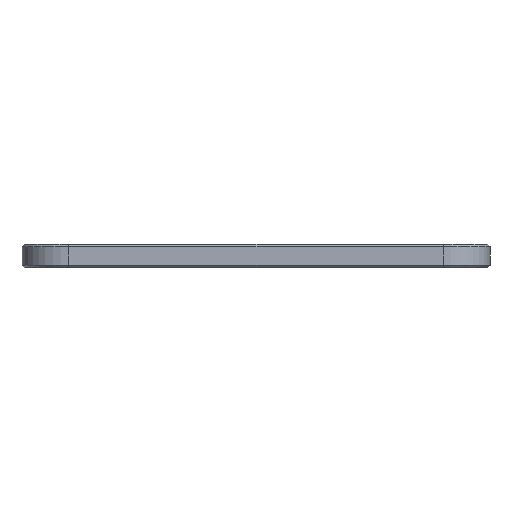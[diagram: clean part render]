
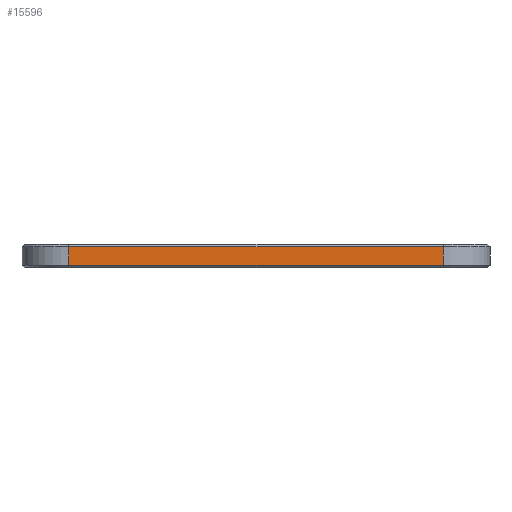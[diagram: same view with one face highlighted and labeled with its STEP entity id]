
A CAD part, left-side view. The second image highlights one B-rep face of the part: STEP entity #15596.
In plain terms, the highlighted planar face has unit normal (-1, 0, 0).
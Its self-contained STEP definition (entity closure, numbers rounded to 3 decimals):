
#1527 = LINE ( 'NONE', #29733, #10711 ) ;
#1763 = EDGE_CURVE ( 'NONE', #8090, #5925, #13549, .T. ) ;
#5013 = VECTOR ( 'NONE', #8669, 1000. ) ;
#5334 = CARTESIAN_POINT ( 'NONE',  ( -50., -70., 10. ) ) ;
#5925 = VERTEX_POINT ( 'NONE', #27170 ) ;
#8090 = VERTEX_POINT ( 'NONE', #29614 ) ;
#8669 = DIRECTION ( 'NONE',  ( 0., 1., 0. ) ) ;
#10711 = VECTOR ( 'NONE', #26700, 1000. ) ;
#11889 = LINE ( 'NONE', #18939, #30333 ) ;
#12311 = DIRECTION ( 'NONE',  ( -1., 0., 0. ) ) ;
#13549 = LINE ( 'NONE', #21523, #22744 ) ;
#14248 = LINE ( 'NONE', #18944, #5013 ) ;
#15596 = ADVANCED_FACE ( 'NONE', ( #25446 ), #33052, .T. ) ;
#17397 = VERTEX_POINT ( 'NONE', #21206 ) ;
#18939 = CARTESIAN_POINT ( 'NONE',  ( -50., 110., 10. ) ) ;
#18944 = CARTESIAN_POINT ( 'NONE',  ( -50., 110., 9. ) ) ;
#21206 = CARTESIAN_POINT ( 'NONE',  ( -50., -50., 9. ) ) ;
#21523 = CARTESIAN_POINT ( 'NONE',  ( -50., -70., 1. ) ) ;
#22434 = DIRECTION ( 'NONE',  ( 0., 0., -1. ) ) ;
#22744 = VECTOR ( 'NONE', #24977, 1000. ) ;
#24200 = ORIENTED_EDGE ( 'NONE', *, *, #36943, .T. ) ;
#24977 = DIRECTION ( 'NONE',  ( 0., -1., 0. ) ) ;
#25446 = FACE_OUTER_BOUND ( 'NONE', #44196, .T. ) ;
#26700 = DIRECTION ( 'NONE',  ( 0., 0., 1. ) ) ;
#27170 = CARTESIAN_POINT ( 'NONE',  ( -50., -50., 1. ) ) ;
#29614 = CARTESIAN_POINT ( 'NONE',  ( -50., 110., 1. ) ) ;
#29733 = CARTESIAN_POINT ( 'NONE',  ( -50., -50., 10. ) ) ;
#29945 = EDGE_CURVE ( 'NONE', #44071, #8090, #11889, .T. ) ;
#30333 = VECTOR ( 'NONE', #22434, 1000. ) ;
#31640 = ORIENTED_EDGE ( 'NONE', *, *, #29945, .T. ) ;
#33052 = PLANE ( 'NONE',  #42220 ) ;
#33623 = ORIENTED_EDGE ( 'NONE', *, *, #1763, .T. ) ;
#36551 = DIRECTION ( 'NONE',  ( 0., 0., 1. ) ) ;
#36943 = EDGE_CURVE ( 'NONE', #17397, #44071, #14248, .T. ) ;
#38791 = ORIENTED_EDGE ( 'NONE', *, *, #41642, .T. ) ;
#41642 = EDGE_CURVE ( 'NONE', #5925, #17397, #1527, .T. ) ;
#42220 = AXIS2_PLACEMENT_3D ( 'NONE', #5334, #12311, #36551 ) ;
#44071 = VERTEX_POINT ( 'NONE', #44692 ) ;
#44196 = EDGE_LOOP ( 'NONE', ( #31640, #33623, #38791, #24200 ) ) ;
#44692 = CARTESIAN_POINT ( 'NONE',  ( -50., 110., 9. ) ) ;
